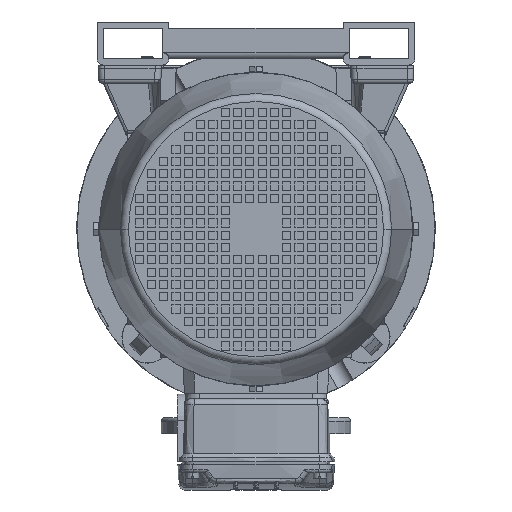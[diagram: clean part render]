
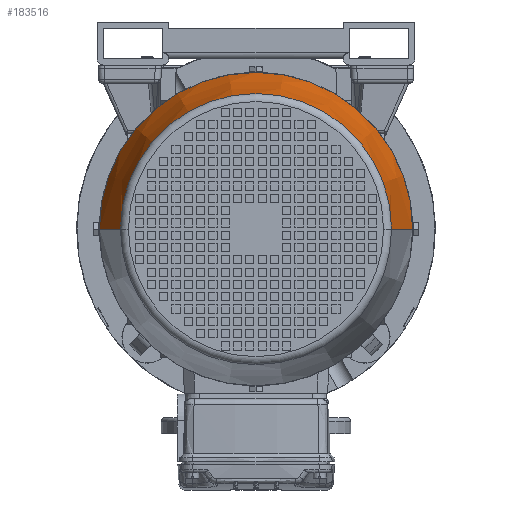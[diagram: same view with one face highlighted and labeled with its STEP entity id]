
A CAD part, front view. The second image highlights one B-rep face of the part: STEP entity #183516.
In plain terms, the highlighted conical face has half-angle 11 degrees and reference radius 132.258 mm.
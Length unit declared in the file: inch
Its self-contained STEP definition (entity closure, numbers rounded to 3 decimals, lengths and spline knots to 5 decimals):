
#1520 = LINE ( 'NONE', #48145, #17597 ) ;
#3331 = CARTESIAN_POINT ( 'NONE',  ( 0., 0., -11.12899 ) ) ;
#6050 = CARTESIAN_POINT ( 'NONE',  ( 5.20702, 0., -11.12899 ) ) ;
#6978 = AXIS2_PLACEMENT_3D ( 'NONE', #53417, #115205, #57413 ) ;
#9524 = CARTESIAN_POINT ( 'NONE',  ( 0., 0., -11.12899 ) ) ;
#12311 = ORIENTED_EDGE ( 'NONE', *, *, #154637, .T. ) ;
#13540 = DIRECTION ( 'NONE',  ( 0., 0., 1. ) ) ;
#15701 = VERTEX_POINT ( 'NONE', #49958 ) ;
#16534 = FACE_OUTER_BOUND ( 'NONE', #165603, .T. ) ;
#17597 = VECTOR ( 'NONE', #128130, 39.37008 ) ;
#45808 = VERTEX_POINT ( 'NONE', #6050 ) ;
#48145 = CARTESIAN_POINT ( 'NONE',  ( 5.20702, 0., -11.12899 ) ) ;
#49958 = CARTESIAN_POINT ( 'NONE',  ( -5.20702, 0., -11.12899 ) ) ;
#53417 = CARTESIAN_POINT ( 'NONE',  ( 0., 0., -6.96516 ) ) ;
#57413 = DIRECTION ( 'NONE',  ( 1., 0., 0. ) ) ;
#59067 = CONICAL_SURFACE ( 'NONE', #78443, 5.20702, 0.192 ) ;
#63421 = VERTEX_POINT ( 'NONE', #178672 ) ;
#66792 = LINE ( 'NONE', #128558, #143634 ) ;
#78443 = AXIS2_PLACEMENT_3D ( 'NONE', #3331, #173556, #110748 ) ;
#87981 = CIRCLE ( 'NONE', #6978, 6.01639 ) ;
#88537 = DIRECTION ( 'NONE',  ( 1., 0., 0. ) ) ;
#89052 = AXIS2_PLACEMENT_3D ( 'NONE', #9524, #13540, #88537 ) ;
#92728 = ORIENTED_EDGE ( 'NONE', *, *, #174080, .F. ) ;
#108250 = EDGE_CURVE ( 'NONE', #63421, #174898, #87981, .T. ) ;
#110748 = DIRECTION ( 'NONE',  ( 1., 0., 0. ) ) ;
#114924 = CIRCLE ( 'NONE', #89052, 5.20702 ) ;
#115205 = DIRECTION ( 'NONE',  ( 0., 0., 1. ) ) ;
#128130 = DIRECTION ( 'NONE',  ( 0.191, 0., 0.982 ) ) ;
#128558 = CARTESIAN_POINT ( 'NONE',  ( -5.20702, 0., -11.12899 ) ) ;
#139173 = ORIENTED_EDGE ( 'NONE', *, *, #108250, .F. ) ;
#143634 = VECTOR ( 'NONE', #190399, 39.37008 ) ;
#145035 = EDGE_CURVE ( 'NONE', #15701, #45808, #114924, .T. ) ;
#154637 = EDGE_CURVE ( 'NONE', #45808, #174898, #1520, .T. ) ;
#164021 = ORIENTED_EDGE ( 'NONE', *, *, #145035, .T. ) ;
#165603 = EDGE_LOOP ( 'NONE', ( #92728, #164021, #12311, #139173 ) ) ;
#173556 = DIRECTION ( 'NONE',  ( 0., 0., 1. ) ) ;
#174080 = EDGE_CURVE ( 'NONE', #15701, #63421, #66792, .T. ) ;
#174898 = VERTEX_POINT ( 'NONE', #190914 ) ;
#178672 = CARTESIAN_POINT ( 'NONE',  ( -6.01639, 0., -6.96516 ) ) ;
#183516 = ADVANCED_FACE ( 'NONE', ( #16534 ), #59067, .T. ) ;
#190399 = DIRECTION ( 'NONE',  ( -0.191, 0., 0.982 ) ) ;
#190914 = CARTESIAN_POINT ( 'NONE',  ( 6.01639, 0., -6.96516 ) ) ;
